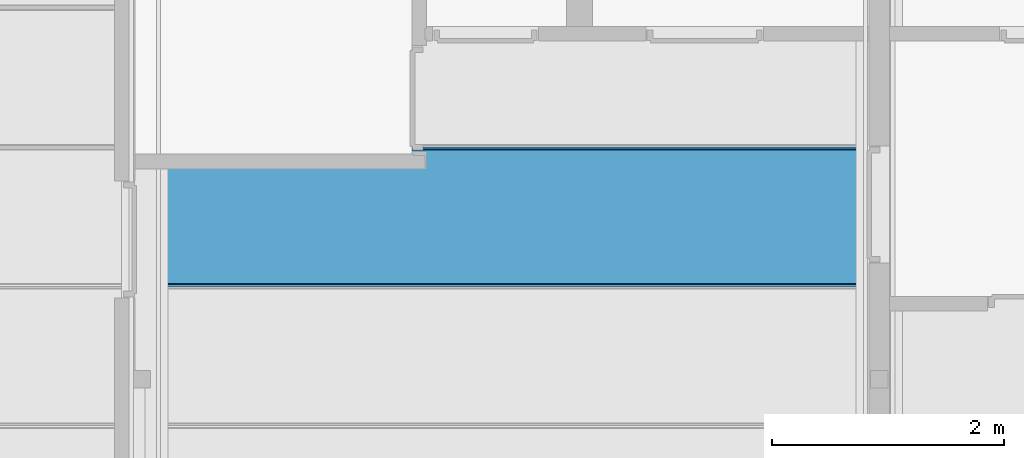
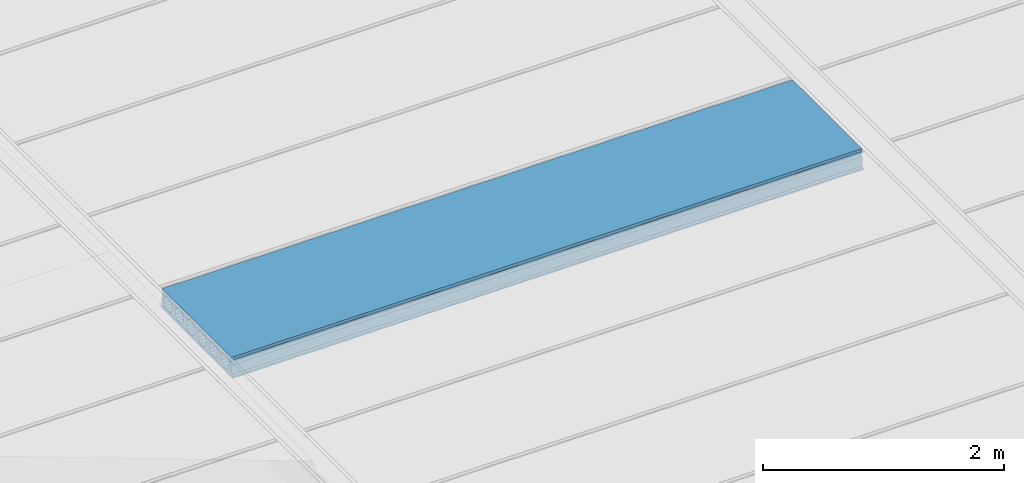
# One storey, part 11 of 45: 1 beam.
"""IFC2X3 building model written with IfcOpenShell, lengths in millimetres."""

from ifc_helpers import new_model, entity, si_unit, converted_unit, frame, origin, place, context, subcontext, project, spatial, faceted_brep, material, element, save


model = new_model("IFC2X3")

# Units and contexts
model_context = context("Model", 3, precision=1e-05, world=origin())
plan_context = context("Plan", 3, precision=1e-05, world=origin())
body_context = subcontext(model_context, "Body", "Model", "MODEL_VIEW")
ifc_project = project(units=[si_unit("LENGTHUNIT", "METRE", prefix="MILLI"), converted_unit("PLANEANGLEUNIT", "DEGREE", entity("IfcPlaneAngleMeasure", 0.0174532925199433), si_unit("PLANEANGLEUNIT", "RADIAN"), dimensions=[0, 0, 0, 0, 0, 0, 0]), si_unit("AREAUNIT", "SQUARE_METRE"), si_unit("VOLUMEUNIT", "CUBIC_METRE")], contexts=[model_context, plan_context])

# Building, storey
building_placement = place(None, origin())
building = spatial("IfcBuilding", under=ifc_project, at=building_placement, Name="HEKF Administrasjonbygg", CompositionType="ELEMENT")
storey_placement = place(building_placement, frame((0.0, 0.0, 6500.0), z_axis=(0.0, 0.0, 1.0), x_axis=(1.0, 0.0, 0.0)))
storey = spatial("IfcBuildingStorey", under=building, at=storey_placement, Name="Plan 1", CompositionType="ELEMENT", Elevation=6500.0)

# Beam
ifc_material = material()
beam_placement = place(storey_placement, frame((0.0, 0.0, -6500.0), z_axis=(0.0, 0.0, 1.0), x_axis=(1.0, 0.0, 0.0)))
element("IfcBeam", 1, at=beam_placement, inside=storey, material=ifc_material, context=body_context, shape_type="Brep", body=[
    faceted_brep([(10135.0, -5999.999999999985, 9684.999999), (10135.0, -5999.999999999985, 9670.0), (16189.99999999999, -6000.000000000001, 9670.000000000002), (16189.99999999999, -6000.0, 9684.999999), (10135.0, -7199.999999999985, 9684.999999), (10135.0, -7199.999999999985, 9670.0), (10135.0, -5999.999999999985, 9670.0), (10135.0, -5999.999999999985, 9684.999999), (10135.0, -6014.99987952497, 9699.999998), (10135.0, -6020.000002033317, 9794.999985), (10135.0, -6035.000003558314, 9809.999985), (10135.0, -6035.000003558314, 9829.999985), (10135.0, -6022.727297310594, 9842.272583), (10135.0, -6024.047732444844, 9870.0), (10135.0, -7175.952372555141, 9870.0), (10135.0, -7177.272729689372, 9842.272735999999), (10135.0, -7165.000000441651, 9829.999985), (10135.0, -7165.000000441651, 9809.999985), (10135.0, -7180.000001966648, 9794.999985), (10135.0, -7184.999999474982, 9699.999998), (10135.0, -7074.999987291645, 9694.999989), (10135.0, -7103.701261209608, 9700.709023), (10135.0, -7128.033020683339, 9716.966995), (10135.0, -7144.290964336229, 9741.298752), (10135.0, -7144.290960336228, 9798.701262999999), (10135.0, -7128.032997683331, 9823.03299), (10135.0, -7103.70124620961, 9839.290955), (10135.0, -7074.999987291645, 9845.0), (10135.0, -7046.298721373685, 9839.290955), (10135.0, -7021.966976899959, 9823.033005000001), (10135.0, -7005.709010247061, 9798.701233), (10135.0, -7005.708980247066, 9741.298767), (10135.0, -7021.966961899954, 9716.966995), (10135.0, -7046.29870537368, 9700.709023), (10135.0, -6884.999967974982, 9694.999989), (10135.0, -6913.701241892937, 9700.709023), (10135.0, -6938.033001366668, 9716.966995), (10135.0, -6954.290945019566, 9741.298752), (10135.0, -6954.290941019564, 9798.701262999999), (10135.0, -6938.032978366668, 9823.03299), (10135.0, -6913.701226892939, 9839.290955), (10135.0, -6884.999967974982, 9845.0), (10135.0, -6856.298702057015, 9839.290955), (10135.0, -6831.966957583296, 9823.033005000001), (10135.0, -6815.708990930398, 9798.701233), (10135.0, -6815.708960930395, 9741.298767), (10135.0, -6831.966942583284, 9716.966995), (10135.0, -6856.298686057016, 9700.709023), (10135.0, -6694.999948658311, 9694.999989), (10135.0, -6723.701222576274, 9700.709023), (10135.0, -6748.032982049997, 9716.966995), (10135.0, -6764.290925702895, 9741.298752), (10135.0, -6764.290921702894, 9798.701262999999), (10135.0, -6748.032959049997, 9823.03299), (10135.0, -6723.701207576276, 9839.290955), (10135.0, -6694.999948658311, 9845.0), (10135.0, -6666.298682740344, 9839.290955), (10135.0, -6641.966938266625, 9823.033005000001), (10135.0, -6625.708971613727, 9798.701233), (10135.0, -6625.708941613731, 9741.298767), (10135.0, -6641.96692326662, 9716.966995), (10135.0, -6666.298666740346, 9700.709023), (10135.0, -6504.99992934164, 9694.999989), (10135.0, -6533.701203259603, 9700.709023), (10135.0, -6558.032962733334, 9716.966995), (10135.0, -6574.290906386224, 9741.298752), (10135.0, -6574.290902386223, 9798.701262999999), (10135.0, -6558.032939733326, 9823.03299), (10135.0, -6533.701188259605, 9839.290955), (10135.0, -6504.99992934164, 9845.0), (10135.0, -6476.29866342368, 9839.290955), (10135.0, -6451.966918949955, 9823.033005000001), (10135.0, -6435.708952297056, 9798.701233), (10135.0, -6435.708922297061, 9741.298767), (10135.0, -6451.96690394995, 9716.966995), (10135.0, -6476.298647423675, 9700.709023), (10135.0, -6314.999910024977, 9694.999989), (10135.0, -6343.701183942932, 9700.709023), (10135.0, -6368.032943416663, 9716.966995), (10135.0, -6384.290887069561, 9741.298752), (10135.0, -6384.29088306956, 9798.701262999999), (10135.0, -6368.032920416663, 9823.03299), (10135.0, -6343.701168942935, 9839.290955), (10135.0, -6314.999910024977, 9845.0), (10135.0, -6286.29864410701, 9839.290955), (10135.0, -6261.966899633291, 9823.033005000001), (10135.0, -6245.708932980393, 9798.701233), (10135.0, -6245.70890298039, 9741.298767), (10135.0, -6261.966884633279, 9716.966995), (10135.0, -6286.298628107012, 9700.709023), (10135.0, -6124.999890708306, 9694.999989), (10135.0, -6153.701164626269, 9700.709023), (10135.0, -6178.032924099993, 9716.966995), (10135.0, -6194.29086775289, 9741.298752), (10135.0, -6194.290863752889, 9798.701262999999), (10135.0, -6178.032901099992, 9823.03299), (10135.0, -6153.701149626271, 9839.290955), (10135.0, -6124.999890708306, 9845.0), (10135.0, -6096.298624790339, 9839.290955), (10135.0, -6071.966880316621, 9823.033005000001), (10135.0, -6055.708913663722, 9798.701233), (10135.0, -6055.708883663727, 9741.298767), (10135.0, -6071.966865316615, 9716.966995), (10135.0, -6096.298608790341, 9700.709023), (16190.0, -7200.0, 9684.999999), (16190.0, -7200.0, 9670.0), (10135.0, -7199.999999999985, 9670.0), (10135.0, -7199.999999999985, 9684.999999), (16189.99999999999, -6000.0, 9684.999999), (16189.99999999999, -6000.000000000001, 9670.000000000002), (16190.0, -7200.0, 9670.0), (16190.0, -7200.0, 9684.999999), (16190.0, -7184.999999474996, 9699.999998), (16190.0, -7180.000001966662, 9794.999985), (16190.0, -7165.000000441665, 9809.999985), (16190.0, -7165.000000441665, 9829.999985), (16190.0, -7177.272729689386, 9842.272735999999), (16190.0, -7175.952372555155, 9870.0), (16190.0, -6024.047732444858, 9870.0), (16190.0, -6022.727297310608, 9842.272583), (16190.0, -6035.000003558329, 9829.999985), (16190.0, -6035.000003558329, 9809.999985), (16190.0, -6020.000002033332, 9794.999985), (16190.0, -6014.999879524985, 9699.999998), (16190.0, -6124.999890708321, 9694.999989), (16190.0, -6096.298608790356, 9700.709023), (16190.0, -6071.96686531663, 9716.966995), (16190.0, -6055.708883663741, 9741.298767), (16190.0, -6055.708913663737, 9798.701233), (16190.0, -6071.966880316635, 9823.033005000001), (16190.0, -6096.298624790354, 9839.290955), (16190.0, -6124.999890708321, 9845.0), (16190.0, -6153.701149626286, 9839.290955), (16190.0, -6178.032901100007, 9823.03299), (16190.0, -6194.290863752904, 9798.701262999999), (16190.0, -6194.290867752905, 9741.298752), (16190.0, -6178.032924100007, 9716.966995), (16190.0, -6153.701164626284, 9700.709023), (16190.0, -6314.999910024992, 9694.999989), (16190.0, -6286.298628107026, 9700.709023), (16190.0, -6261.966884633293, 9716.966995), (16190.0, -6245.708902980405, 9741.298767), (16190.0, -6245.708932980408, 9798.701233), (16190.0, -6261.966899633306, 9823.033005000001), (16190.0, -6286.298644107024, 9839.290955), (16190.0, -6314.999910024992, 9845.0), (16190.0, -6343.701168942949, 9839.290955), (16190.0, -6368.032920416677, 9823.03299), (16190.0, -6384.290883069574, 9798.701262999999), (16190.0, -6384.290887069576, 9741.298752), (16190.0, -6368.032943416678, 9716.966995), (16190.0, -6343.701183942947, 9700.709023), (16190.0, -6504.999929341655, 9694.999989), (16190.0, -6476.29864742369, 9700.709023), (16190.0, -6451.966903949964, 9716.966995), (16190.0, -6435.708922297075, 9741.298767), (16190.0, -6435.708952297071, 9798.701233), (16190.0, -6451.966918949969, 9823.033005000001), (16190.0, -6476.298663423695, 9839.290955), (16190.0, -6504.999929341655, 9845.0), (16190.0, -6533.70118825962, 9839.290955), (16190.0, -6558.032939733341, 9823.03299), (16190.0, -6574.290902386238, 9798.701262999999), (16190.0, -6574.290906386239, 9741.298752), (16190.0, -6558.032962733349, 9716.966995), (16190.0, -6533.701203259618, 9700.709023), (16190.0, -6694.999948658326, 9694.999989), (16190.0, -6666.29866674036, 9700.709023), (16190.0, -6641.966923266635, 9716.966995), (16190.0, -6625.708941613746, 9741.298767), (16190.0, -6625.708971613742, 9798.701233), (16190.0, -6641.96693826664, 9823.033005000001), (16190.0, -6666.298682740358, 9839.290955), (16190.0, -6694.999948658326, 9845.0), (16190.0, -6723.701207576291, 9839.290955), (16190.0, -6748.032959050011, 9823.03299), (16190.0, -6764.290921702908, 9798.701262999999), (16190.0, -6764.29092570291, 9741.298752), (16190.0, -6748.032982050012, 9716.966995), (16190.0, -6723.701222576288, 9700.709023), (16190.0, -6884.999967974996, 9694.999989), (16190.0, -6856.298686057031, 9700.709023), (16190.0, -6831.966942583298, 9716.966995), (16190.0, -6815.708960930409, 9741.298767), (16190.0, -6815.708990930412, 9798.701233), (16190.0, -6831.96695758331, 9823.033005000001), (16190.0, -6856.298702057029, 9839.290955), (16190.0, -6884.999967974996, 9845.0), (16190.0, -6913.701226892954, 9839.290955), (16190.0, -6938.032978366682, 9823.03299), (16190.0, -6954.290941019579, 9798.701262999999), (16190.0, -6954.29094501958, 9741.298752), (16190.0, -6938.033001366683, 9716.966995), (16190.0, -6913.701241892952, 9700.709023), (16190.0, -7074.99998729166, 9694.999989), (16190.0, -7046.298705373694, 9700.709023), (16190.0, -7021.966961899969, 9716.966995), (16190.0, -7005.70898024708, 9741.298767), (16190.0, -7005.709010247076, 9798.701233), (16190.0, -7021.966976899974, 9823.033005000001), (16190.0, -7046.2987213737, 9839.290955), (16190.0, -7074.99998729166, 9845.0), (16190.0, -7103.701246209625, 9839.290955), (16190.0, -7128.032997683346, 9823.03299), (16190.0, -7144.290960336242, 9798.701262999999), (16190.0, -7144.290964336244, 9741.298752), (16190.0, -7128.033020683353, 9716.966995), (16190.0, -7103.701261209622, 9700.709023), (10135.0, -7199.999999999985, 9684.999999), (10135.0, -7184.999999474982, 9699.999998), (16190.0, -7184.999999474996, 9699.999998), (16190.0, -7200.0, 9684.999999), (10135.0, -7184.999999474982, 9699.999998), (10135.0, -7180.000001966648, 9794.999985), (16190.0, -7180.000001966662, 9794.999985), (16190.0, -7184.999999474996, 9699.999998), (10135.0, -7180.000001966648, 9794.999985), (10135.0, -7165.000000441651, 9809.999985), (16190.0, -7165.000000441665, 9809.999985), (16190.0, -7180.000001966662, 9794.999985), (10135.0, -7165.000000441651, 9809.999985), (10135.0, -7165.000000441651, 9829.999985), (16190.0, -7165.000000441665, 9829.999985), (16190.0, -7165.000000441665, 9809.999985), (10135.0, -7165.000000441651, 9829.999985), (10135.0, -7177.272729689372, 9842.272735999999), (16190.0, -7177.272729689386, 9842.272735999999), (16190.0, -7165.000000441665, 9829.999985), (10135.0, -7177.272729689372, 9842.272735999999), (10135.0, -7175.952372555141, 9870.0), (16190.0, -7175.952372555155, 9870.0), (16190.0, -7177.272729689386, 9842.272735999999), (10135.0, -7175.952372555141, 9870.0), (10135.0, -6024.047732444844, 9870.0), (16190.0, -6024.047732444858, 9870.0), (16190.0, -7175.952372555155, 9870.0), (10135.0, -6024.047732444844, 9870.0), (10135.0, -6022.727297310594, 9842.272583), (16190.0, -6022.727297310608, 9842.272583), (16190.0, -6024.047732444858, 9870.0), (10135.0, -6022.727297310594, 9842.272583), (10135.0, -6035.000003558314, 9829.999985), (16190.0, -6035.000003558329, 9829.999985), (16190.0, -6022.727297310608, 9842.272583), (10135.0, -6035.000003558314, 9829.999985), (10135.0, -6035.000003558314, 9809.999985), (16190.0, -6035.000003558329, 9809.999985), (16190.0, -6035.000003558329, 9829.999985), (10135.0, -6035.000003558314, 9809.999985), (10135.0, -6020.000002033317, 9794.999985), (16190.0, -6020.000002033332, 9794.999985), (16190.0, -6035.000003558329, 9809.999985), (10135.0, -6020.000002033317, 9794.999985), (10135.0, -6014.99987952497, 9699.999998), (16190.0, -6014.999879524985, 9699.999998), (16190.0, -6020.000002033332, 9794.999985), (10135.0, -6014.99987952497, 9699.999998), (10135.0, -5999.999999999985, 9684.999999), (16189.99999999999, -6000.0, 9684.999999), (16190.0, -6014.999879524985, 9699.999998), (10135.0, -5999.999999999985, 9670.0), (10135.0, -7199.999999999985, 9670.0), (16190.0, -7200.0, 9670.0), (16189.99999999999, -6000.000000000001, 9670.000000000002), (10135.0, -6124.999890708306, 9694.999989), (10135.0, -6096.298608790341, 9700.709023), (16190.0, -6096.298608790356, 9700.709023), (16190.0, -6124.999890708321, 9694.999989), (10135.0, -6096.298608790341, 9700.709023), (10135.0, -6071.966865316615, 9716.966995), (16190.0, -6071.96686531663, 9716.966995), (16190.0, -6096.298608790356, 9700.709023), (10135.0, -6071.966865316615, 9716.966995), (10135.0, -6055.708883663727, 9741.298767), (16190.0, -6055.708883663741, 9741.298767), (16190.0, -6071.96686531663, 9716.966995), (10135.0, -6055.708883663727, 9741.298767), (10135.0, -6055.708913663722, 9798.701233), (16190.0, -6055.708913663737, 9798.701233), (16190.0, -6055.708883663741, 9741.298767), (10135.0, -6055.708913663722, 9798.701233), (10135.0, -6071.966880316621, 9823.033005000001), (16190.0, -6071.966880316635, 9823.033005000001), (16190.0, -6055.708913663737, 9798.701233), (10135.0, -6071.966880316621, 9823.033005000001), (10135.0, -6096.298624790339, 9839.290955), (16190.0, -6096.298624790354, 9839.290955), (16190.0, -6071.966880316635, 9823.033005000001), (10135.0, -6096.298624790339, 9839.290955), (10135.0, -6124.999890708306, 9845.0), (16190.0, -6124.999890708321, 9845.0), (16190.0, -6096.298624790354, 9839.290955), (10135.0, -6124.999890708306, 9845.0), (10135.0, -6153.701149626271, 9839.290955), (16190.0, -6153.701149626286, 9839.290955), (16190.0, -6124.999890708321, 9845.0), (10135.0, -6153.701149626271, 9839.290955), (10135.0, -6178.032901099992, 9823.03299), (16190.0, -6178.032901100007, 9823.03299), (16190.0, -6153.701149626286, 9839.290955), (10135.0, -6178.032901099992, 9823.03299), (10135.0, -6194.290863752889, 9798.701262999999), (16190.0, -6194.290863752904, 9798.701262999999), (16190.0, -6178.032901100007, 9823.03299), (10135.0, -6194.290863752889, 9798.701262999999), (10135.0, -6194.29086775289, 9741.298752), (16190.0, -6194.290867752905, 9741.298752), (16190.0, -6194.290863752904, 9798.701262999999), (10135.0, -6194.29086775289, 9741.298752), (10135.0, -6178.032924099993, 9716.966995), (16190.0, -6178.032924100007, 9716.966995), (16190.0, -6194.290867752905, 9741.298752), (10135.0, -6178.032924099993, 9716.966995), (10135.0, -6153.701164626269, 9700.709023), (16190.0, -6153.701164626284, 9700.709023), (16190.0, -6178.032924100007, 9716.966995), (10135.0, -6153.701164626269, 9700.709023), (10135.0, -6124.999890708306, 9694.999989), (16190.0, -6124.999890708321, 9694.999989), (16190.0, -6153.701164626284, 9700.709023), (10135.0, -6314.999910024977, 9694.999989), (10135.0, -6286.298628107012, 9700.709023), (16190.0, -6286.298628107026, 9700.709023), (16190.0, -6314.999910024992, 9694.999989), (10135.0, -6286.298628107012, 9700.709023), (10135.0, -6261.966884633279, 9716.966995), (16190.0, -6261.966884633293, 9716.966995), (16190.0, -6286.298628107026, 9700.709023), (10135.0, -6261.966884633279, 9716.966995), (10135.0, -6245.70890298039, 9741.298767), (16190.0, -6245.708902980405, 9741.298767), (16190.0, -6261.966884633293, 9716.966995), (10135.0, -6245.70890298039, 9741.298767), (10135.0, -6245.708932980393, 9798.701233), (16190.0, -6245.708932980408, 9798.701233), (16190.0, -6245.708902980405, 9741.298767), (10135.0, -6245.708932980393, 9798.701233), (10135.0, -6261.966899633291, 9823.033005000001), (16190.0, -6261.966899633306, 9823.033005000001), (16190.0, -6245.708932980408, 9798.701233), (10135.0, -6261.966899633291, 9823.033005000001), (10135.0, -6286.29864410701, 9839.290955), (16190.0, -6286.298644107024, 9839.290955), (16190.0, -6261.966899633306, 9823.033005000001), (10135.0, -6286.29864410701, 9839.290955), (10135.0, -6314.999910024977, 9845.0), (16190.0, -6314.999910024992, 9845.0), (16190.0, -6286.298644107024, 9839.290955), (10135.0, -6314.999910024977, 9845.0), (10135.0, -6343.701168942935, 9839.290955), (16190.0, -6343.701168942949, 9839.290955), (16190.0, -6314.999910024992, 9845.0), (10135.0, -6343.701168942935, 9839.290955), (10135.0, -6368.032920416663, 9823.03299), (16190.0, -6368.032920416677, 9823.03299), (16190.0, -6343.701168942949, 9839.290955), (10135.0, -6368.032920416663, 9823.03299), (10135.0, -6384.29088306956, 9798.701262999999), (16190.0, -6384.290883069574, 9798.701262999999), (16190.0, -6368.032920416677, 9823.03299), (10135.0, -6384.29088306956, 9798.701262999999), (10135.0, -6384.290887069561, 9741.298752), (16190.0, -6384.290887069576, 9741.298752), (16190.0, -6384.290883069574, 9798.701262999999), (10135.0, -6384.290887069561, 9741.298752), (10135.0, -6368.032943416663, 9716.966995), (16190.0, -6368.032943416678, 9716.966995), (16190.0, -6384.290887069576, 9741.298752), (10135.0, -6368.032943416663, 9716.966995), (10135.0, -6343.701183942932, 9700.709023), (16190.0, -6343.701183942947, 9700.709023), (16190.0, -6368.032943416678, 9716.966995), (10135.0, -6343.701183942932, 9700.709023), (10135.0, -6314.999910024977, 9694.999989), (16190.0, -6314.999910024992, 9694.999989), (16190.0, -6343.701183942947, 9700.709023), (10135.0, -6504.99992934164, 9694.999989), (10135.0, -6476.298647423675, 9700.709023), (16190.0, -6476.29864742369, 9700.709023), (16190.0, -6504.999929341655, 9694.999989), (10135.0, -6476.298647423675, 9700.709023), (10135.0, -6451.96690394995, 9716.966995), (16190.0, -6451.966903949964, 9716.966995), (16190.0, -6476.29864742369, 9700.709023), (10135.0, -6451.96690394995, 9716.966995), (10135.0, -6435.708922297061, 9741.298767), (16190.0, -6435.708922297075, 9741.298767), (16190.0, -6451.966903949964, 9716.966995), (10135.0, -6435.708922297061, 9741.298767), (10135.0, -6435.708952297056, 9798.701233), (16190.0, -6435.708952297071, 9798.701233), (16190.0, -6435.708922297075, 9741.298767), (10135.0, -6435.708952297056, 9798.701233), (10135.0, -6451.966918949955, 9823.033005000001), (16190.0, -6451.966918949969, 9823.033005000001), (16190.0, -6435.708952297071, 9798.701233), (10135.0, -6451.966918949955, 9823.033005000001), (10135.0, -6476.29866342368, 9839.290955), (16190.0, -6476.298663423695, 9839.290955), (16190.0, -6451.966918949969, 9823.033005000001), (10135.0, -6476.29866342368, 9839.290955), (10135.0, -6504.99992934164, 9845.0), (16190.0, -6504.999929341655, 9845.0), (16190.0, -6476.298663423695, 9839.290955), (10135.0, -6504.99992934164, 9845.0), (10135.0, -6533.701188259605, 9839.290955), (16190.0, -6533.70118825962, 9839.290955), (16190.0, -6504.999929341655, 9845.0), (10135.0, -6533.701188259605, 9839.290955), (10135.0, -6558.032939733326, 9823.03299), (16190.0, -6558.032939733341, 9823.03299), (16190.0, -6533.70118825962, 9839.290955), (10135.0, -6558.032939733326, 9823.03299), (10135.0, -6574.290902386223, 9798.701262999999), (16190.0, -6574.290902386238, 9798.701262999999), (16190.0, -6558.032939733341, 9823.03299), (10135.0, -6574.290902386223, 9798.701262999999), (10135.0, -6574.290906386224, 9741.298752), (16190.0, -6574.290906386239, 9741.298752), (16190.0, -6574.290902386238, 9798.701262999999), (10135.0, -6574.290906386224, 9741.298752), (10135.0, -6558.032962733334, 9716.966995), (16190.0, -6558.032962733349, 9716.966995), (16190.0, -6574.290906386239, 9741.298752), (10135.0, -6558.032962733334, 9716.966995), (10135.0, -6533.701203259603, 9700.709023), (16190.0, -6533.701203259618, 9700.709023), (16190.0, -6558.032962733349, 9716.966995), (10135.0, -6533.701203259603, 9700.709023), (10135.0, -6504.99992934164, 9694.999989), (16190.0, -6504.999929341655, 9694.999989), (16190.0, -6533.701203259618, 9700.709023), (10135.0, -6694.999948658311, 9694.999989), (10135.0, -6666.298666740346, 9700.709023), (16190.0, -6666.29866674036, 9700.709023), (16190.0, -6694.999948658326, 9694.999989), (10135.0, -6666.298666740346, 9700.709023), (10135.0, -6641.96692326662, 9716.966995), (16190.0, -6641.966923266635, 9716.966995), (16190.0, -6666.29866674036, 9700.709023), (10135.0, -6641.96692326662, 9716.966995), (10135.0, -6625.708941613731, 9741.298767), (16190.0, -6625.708941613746, 9741.298767), (16190.0, -6641.966923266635, 9716.966995), (10135.0, -6625.708941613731, 9741.298767), (10135.0, -6625.708971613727, 9798.701233), (16190.0, -6625.708971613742, 9798.701233), (16190.0, -6625.708941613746, 9741.298767), (10135.0, -6625.708971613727, 9798.701233), (10135.0, -6641.966938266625, 9823.033005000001), (16190.0, -6641.96693826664, 9823.033005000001), (16190.0, -6625.708971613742, 9798.701233), (10135.0, -6641.966938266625, 9823.033005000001), (10135.0, -6666.298682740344, 9839.290955), (16190.0, -6666.298682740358, 9839.290955), (16190.0, -6641.96693826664, 9823.033005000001), (10135.0, -6666.298682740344, 9839.290955), (10135.0, -6694.999948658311, 9845.0), (16190.0, -6694.999948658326, 9845.0), (16190.0, -6666.298682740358, 9839.290955), (10135.0, -6694.999948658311, 9845.0), (10135.0, -6723.701207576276, 9839.290955), (16190.0, -6723.701207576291, 9839.290955), (16190.0, -6694.999948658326, 9845.0), (10135.0, -6723.701207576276, 9839.290955), (10135.0, -6748.032959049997, 9823.03299), (16190.0, -6748.032959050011, 9823.03299), (16190.0, -6723.701207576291, 9839.290955), (10135.0, -6748.032959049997, 9823.03299), (10135.0, -6764.290921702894, 9798.701262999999), (16190.0, -6764.290921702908, 9798.701262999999), (16190.0, -6748.032959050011, 9823.03299), (10135.0, -6764.290921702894, 9798.701262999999), (10135.0, -6764.290925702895, 9741.298752), (16190.0, -6764.29092570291, 9741.298752), (16190.0, -6764.290921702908, 9798.701262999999), (10135.0, -6764.290925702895, 9741.298752), (10135.0, -6748.032982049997, 9716.966995), (16190.0, -6748.032982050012, 9716.966995), (16190.0, -6764.29092570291, 9741.298752), (10135.0, -6748.032982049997, 9716.966995), (10135.0, -6723.701222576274, 9700.709023), (16190.0, -6723.701222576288, 9700.709023), (16190.0, -6748.032982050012, 9716.966995), (10135.0, -6723.701222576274, 9700.709023), (10135.0, -6694.999948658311, 9694.999989), (16190.0, -6694.999948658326, 9694.999989), (16190.0, -6723.701222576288, 9700.709023), (10135.0, -6884.999967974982, 9694.999989), (10135.0, -6856.298686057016, 9700.709023), (16190.0, -6856.298686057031, 9700.709023), (16190.0, -6884.999967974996, 9694.999989), (10135.0, -6856.298686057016, 9700.709023), (10135.0, -6831.966942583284, 9716.966995), (16190.0, -6831.966942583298, 9716.966995), (16190.0, -6856.298686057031, 9700.709023), (10135.0, -6831.966942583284, 9716.966995), (10135.0, -6815.708960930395, 9741.298767), (16190.0, -6815.708960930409, 9741.298767), (16190.0, -6831.966942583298, 9716.966995), (10135.0, -6815.708960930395, 9741.298767), (10135.0, -6815.708990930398, 9798.701233), (16190.0, -6815.708990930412, 9798.701233), (16190.0, -6815.708960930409, 9741.298767), (10135.0, -6815.708990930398, 9798.701233), (10135.0, -6831.966957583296, 9823.033005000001), (16190.0, -6831.96695758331, 9823.033005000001), (16190.0, -6815.708990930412, 9798.701233), (10135.0, -6831.966957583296, 9823.033005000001), (10135.0, -6856.298702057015, 9839.290955), (16190.0, -6856.298702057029, 9839.290955), (16190.0, -6831.96695758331, 9823.033005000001), (10135.0, -6856.298702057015, 9839.290955), (10135.0, -6884.999967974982, 9845.0), (16190.0, -6884.999967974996, 9845.0), (16190.0, -6856.298702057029, 9839.290955), (10135.0, -6884.999967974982, 9845.0), (10135.0, -6913.701226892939, 9839.290955), (16190.0, -6913.701226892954, 9839.290955), (16190.0, -6884.999967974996, 9845.0), (10135.0, -6913.701226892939, 9839.290955), (10135.0, -6938.032978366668, 9823.03299), (16190.0, -6938.032978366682, 9823.03299), (16190.0, -6913.701226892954, 9839.290955), (10135.0, -6938.032978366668, 9823.03299), (10135.0, -6954.290941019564, 9798.701262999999), (16190.0, -6954.290941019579, 9798.701262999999), (16190.0, -6938.032978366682, 9823.03299), (10135.0, -6954.290941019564, 9798.701262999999), (10135.0, -6954.290945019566, 9741.298752), (16190.0, -6954.29094501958, 9741.298752), (16190.0, -6954.290941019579, 9798.701262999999), (10135.0, -6954.290945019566, 9741.298752), (10135.0, -6938.033001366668, 9716.966995), (16190.0, -6938.033001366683, 9716.966995), (16190.0, -6954.29094501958, 9741.298752), (10135.0, -6938.033001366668, 9716.966995), (10135.0, -6913.701241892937, 9700.709023), (16190.0, -6913.701241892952, 9700.709023), (16190.0, -6938.033001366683, 9716.966995), (10135.0, -6913.701241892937, 9700.709023), (10135.0, -6884.999967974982, 9694.999989), (16190.0, -6884.999967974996, 9694.999989), (16190.0, -6913.701241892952, 9700.709023), (10135.0, -7074.999987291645, 9694.999989), (10135.0, -7046.29870537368, 9700.709023), (16190.0, -7046.298705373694, 9700.709023), (16190.0, -7074.99998729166, 9694.999989), (10135.0, -7046.29870537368, 9700.709023), (10135.0, -7021.966961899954, 9716.966995), (16190.0, -7021.966961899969, 9716.966995), (16190.0, -7046.298705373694, 9700.709023), (10135.0, -7021.966961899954, 9716.966995), (10135.0, -7005.708980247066, 9741.298767), (16190.0, -7005.70898024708, 9741.298767), (16190.0, -7021.966961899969, 9716.966995), (10135.0, -7005.708980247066, 9741.298767), (10135.0, -7005.709010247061, 9798.701233), (16190.0, -7005.709010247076, 9798.701233), (16190.0, -7005.70898024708, 9741.298767), (10135.0, -7005.709010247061, 9798.701233), (10135.0, -7021.966976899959, 9823.033005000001), (16190.0, -7021.966976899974, 9823.033005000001), (16190.0, -7005.709010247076, 9798.701233), (10135.0, -7021.966976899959, 9823.033005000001), (10135.0, -7046.298721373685, 9839.290955), (16190.0, -7046.2987213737, 9839.290955), (16190.0, -7021.966976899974, 9823.033005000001), (10135.0, -7046.298721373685, 9839.290955), (10135.0, -7074.999987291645, 9845.0), (16190.0, -7074.99998729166, 9845.0), (16190.0, -7046.2987213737, 9839.290955), (10135.0, -7074.999987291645, 9845.0), (10135.0, -7103.70124620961, 9839.290955), (16190.0, -7103.701246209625, 9839.290955), (16190.0, -7074.99998729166, 9845.0), (10135.0, -7103.70124620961, 9839.290955), (10135.0, -7128.032997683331, 9823.03299), (16190.0, -7128.032997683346, 9823.03299), (16190.0, -7103.701246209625, 9839.290955), (10135.0, -7128.032997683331, 9823.03299), (10135.0, -7144.290960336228, 9798.701262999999), (16190.0, -7144.290960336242, 9798.701262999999), (16190.0, -7128.032997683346, 9823.03299), (10135.0, -7144.290960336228, 9798.701262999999), (10135.0, -7144.290964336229, 9741.298752), (16190.0, -7144.290964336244, 9741.298752), (16190.0, -7144.290960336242, 9798.701262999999), (10135.0, -7144.290964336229, 9741.298752), (10135.0, -7128.033020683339, 9716.966995), (16190.0, -7128.033020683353, 9716.966995), (16190.0, -7144.290964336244, 9741.298752), (10135.0, -7128.033020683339, 9716.966995), (10135.0, -7103.701261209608, 9700.709023), (16190.0, -7103.701261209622, 9700.709023), (16190.0, -7128.033020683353, 9716.966995), (10135.0, -7103.701261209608, 9700.709023), (10135.0, -7074.999987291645, 9694.999989), (16190.0, -7074.99998729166, 9694.999989), (16190.0, -7103.701261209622, 9700.709023)], [[[0, 1, 2, 3]], [[4, 5, 6, 7, 8, 9, 10, 11, 12, 13, 14, 15, 16, 17, 18, 19], [20, 21, 22, 23, 24, 25, 26, 27, 28, 29, 30, 31, 32, 33], [34, 35, 36, 37, 38, 39, 40, 41, 42, 43, 44, 45, 46, 47], [48, 49, 50, 51, 52, 53, 54, 55, 56, 57, 58, 59, 60, 61], [62, 63, 64, 65, 66, 67, 68, 69, 70, 71, 72, 73, 74, 75], [76, 77, 78, 79, 80, 81, 82, 83, 84, 85, 86, 87, 88, 89], [90, 91, 92, 93, 94, 95, 96, 97, 98, 99, 100, 101, 102, 103]], [[104, 105, 106, 107]], [[108, 109, 110, 111, 112, 113, 114, 115, 116, 117, 118, 119, 120, 121, 122, 123], [124, 125, 126, 127, 128, 129, 130, 131, 132, 133, 134, 135, 136, 137], [138, 139, 140, 141, 142, 143, 144, 145, 146, 147, 148, 149, 150, 151], [152, 153, 154, 155, 156, 157, 158, 159, 160, 161, 162, 163, 164, 165], [166, 167, 168, 169, 170, 171, 172, 173, 174, 175, 176, 177, 178, 179], [180, 181, 182, 183, 184, 185, 186, 187, 188, 189, 190, 191, 192, 193], [194, 195, 196, 197, 198, 199, 200, 201, 202, 203, 204, 205, 206, 207]], [[208, 209, 210, 211]], [[212, 213, 214, 215]], [[216, 217, 218, 219]], [[220, 221, 222, 223]], [[224, 225, 226, 227]], [[228, 229, 230, 231]], [[232, 233, 234, 235]], [[236, 237, 238, 239]], [[240, 241, 242, 243]], [[244, 245, 246, 247]], [[248, 249, 250, 251]], [[252, 253, 254, 255]], [[256, 257, 258, 259]], [[260, 261, 262, 263]], [[264, 265, 266, 267]], [[268, 269, 270, 271]], [[272, 273, 274, 275]], [[276, 277, 278, 279]], [[280, 281, 282, 283]], [[284, 285, 286, 287]], [[288, 289, 290, 291]], [[292, 293, 294, 295]], [[296, 297, 298, 299]], [[300, 301, 302, 303]], [[304, 305, 306, 307]], [[308, 309, 310, 311]], [[312, 313, 314, 315]], [[316, 317, 318, 319]], [[320, 321, 322, 323]], [[324, 325, 326, 327]], [[328, 329, 330, 331]], [[332, 333, 334, 335]], [[336, 337, 338, 339]], [[340, 341, 342, 343]], [[344, 345, 346, 347]], [[348, 349, 350, 351]], [[352, 353, 354, 355]], [[356, 357, 358, 359]], [[360, 361, 362, 363]], [[364, 365, 366, 367]], [[368, 369, 370, 371]], [[372, 373, 374, 375]], [[376, 377, 378, 379]], [[380, 381, 382, 383]], [[384, 385, 386, 387]], [[388, 389, 390, 391]], [[392, 393, 394, 395]], [[396, 397, 398, 399]], [[400, 401, 402, 403]], [[404, 405, 406, 407]], [[408, 409, 410, 411]], [[412, 413, 414, 415]], [[416, 417, 418, 419]], [[420, 421, 422, 423]], [[424, 425, 426, 427]], [[428, 429, 430, 431]], [[432, 433, 434, 435]], [[436, 437, 438, 439]], [[440, 441, 442, 443]], [[444, 445, 446, 447]], [[448, 449, 450, 451]], [[452, 453, 454, 455]], [[456, 457, 458, 459]], [[460, 461, 462, 463]], [[464, 465, 466, 467]], [[468, 469, 470, 471]], [[472, 473, 474, 475]], [[476, 477, 478, 479]], [[480, 481, 482, 483]], [[484, 485, 486, 487]], [[488, 489, 490, 491]], [[492, 493, 494, 495]], [[496, 497, 498, 499]], [[500, 501, 502, 503]], [[504, 505, 506, 507]], [[508, 509, 510, 511]], [[512, 513, 514, 515]], [[516, 517, 518, 519]], [[520, 521, 522, 523]], [[524, 525, 526, 527]], [[528, 529, 530, 531]], [[532, 533, 534, 535]], [[536, 537, 538, 539]], [[540, 541, 542, 543]], [[544, 545, 546, 547]], [[548, 549, 550, 551]], [[552, 553, 554, 555]], [[556, 557, 558, 559]], [[560, 561, 562, 563]], [[564, 565, 566, 567]], [[568, 569, 570, 571]], [[572, 573, 574, 575]], [[576, 577, 578, 579]], [[580, 581, 582, 583]], [[584, 585, 586, 587]], [[588, 589, 590, 591]], [[592, 593, 594, 595]], [[596, 597, 598, 599]]], orient=[[False], [False, False, False, False, False, False, False], [False], [False, False, False, False, False, False, False], [False], [False], [False], [False], [False], [False], [False], [False], [False], [False], [False], [False], [False], [False], [False], [False], [False], [False], [False], [False], [False], [False], [False], [False], [False], [False], [False], [False], [False], [False], [False], [False], [False], [False], [False], [False], [False], [False], [False], [False], [False], [False], [False], [False], [False], [False], [False], [False], [False], [False], [False], [False], [False], [False], [False], [False], [False], [False], [False], [False], [False], [False], [False], [False], [False], [False], [False], [False], [False], [False], [False], [False], [False], [False], [False], [False], [False], [False], [False], [False], [False], [False], [False], [False], [False], [False], [False], [False], [False], [False], [False], [False], [False], [False], [False], [False], [False], [False]]),
])

save(model, "model.ifc")
